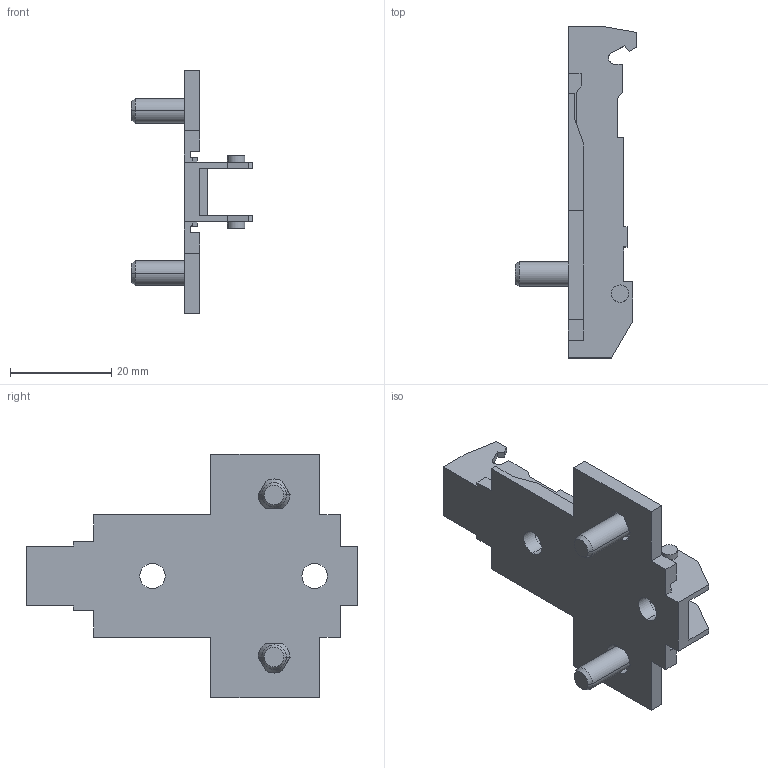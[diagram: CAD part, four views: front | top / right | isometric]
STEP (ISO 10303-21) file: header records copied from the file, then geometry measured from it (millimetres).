
FILE_DESCRIPTION (( 'STEP AP214' ), '1' );
FILE_NAME ('1D_Kreuzmontageplatte 28_32_Euro_vorgestellt 13,5_3.step', '2018-10-02T12:38:51', ( '' ), ( '' ), 'SwSTEP 2.0', 'SolidWorks 2017', '' );
FILE_SCHEMA (( 'AUTOMOTIVE_DESIGN' ));
Length unit declared in the file: millimetre
Products named in the file (1): 1D_Kreuzmontageplatte 28_32_Euro_vorgestellt 13,5_3
Bounding box: 24 x 65.5 x 48 mm (x, y, z)
Volume: 6934.8 mm3; surface area: 7429.8 mm2
Topology: 1 solids, 1 shells, 138 faces, 390 edges, 254 vertices
Faces by surface type: plane 92, cylinder 34, cone 12
Entity records: 4550 total; most frequent: CARTESIAN_POINT 873, ORIENTED_EDGE 780, DIRECTION 730, EDGE_CURVE 390, VECTOR 292, LINE 292, VERTEX_POINT 254, AXIS2_PLACEMENT_3D 219
